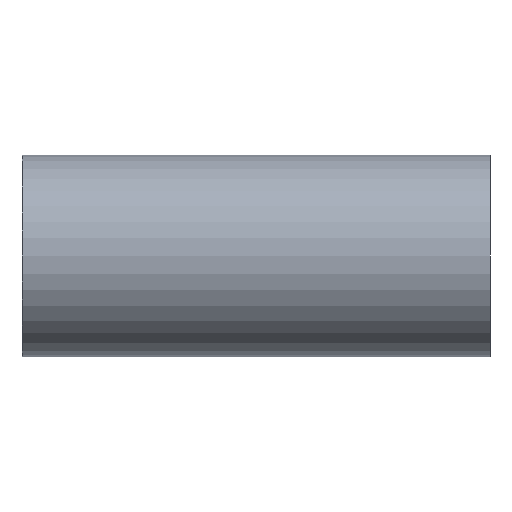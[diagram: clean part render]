
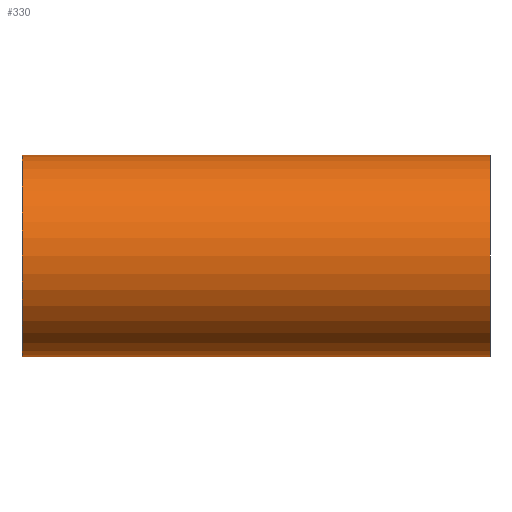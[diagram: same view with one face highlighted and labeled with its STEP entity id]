
A CAD part, front view. The second image highlights one B-rep face of the part: STEP entity #330.
In plain terms, the highlighted cylindrical face has radius 38.1 mm (diameter 76.2 mm), a partial arc.
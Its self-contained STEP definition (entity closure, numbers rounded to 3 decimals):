
#20 = CYLINDRICAL_SURFACE ( 'NONE', #525, 38.1 ) ;
#70 = CARTESIAN_POINT ( 'NONE',  ( 196.163, 0., -38.1 ) ) ;
#74 = AXIS2_PLACEMENT_3D ( 'NONE', #413, #350, #375 ) ;
#137 = CARTESIAN_POINT ( 'NONE',  ( 88.4, 0., 38.1 ) ) ;
#151 = DIRECTION ( 'NONE',  ( 0., 0., 1. ) ) ;
#162 = EDGE_CURVE ( 'NONE', #223, #407, #475, .T. ) ;
#164 = DIRECTION ( 'NONE',  ( 0., 0., 1. ) ) ;
#165 = VECTOR ( 'NONE', #239, 1000. ) ;
#174 = AXIS2_PLACEMENT_3D ( 'NONE', #439, #442, #164 ) ;
#187 = VERTEX_POINT ( 'NONE', #479 ) ;
#189 = EDGE_CURVE ( 'NONE', #223, #490, #463, .T. ) ;
#223 = VERTEX_POINT ( 'NONE', #480 ) ;
#239 = DIRECTION ( 'NONE',  ( -1., 0., 0. ) ) ;
#264 = EDGE_CURVE ( 'NONE', #407, #187, #328, .T. ) ;
#266 = ORIENTED_EDGE ( 'NONE', *, *, #295, .T. ) ;
#272 = FACE_OUTER_BOUND ( 'NONE', #310, .T. ) ;
#291 = DIRECTION ( 'NONE',  ( -1., 0., 0. ) ) ;
#295 = EDGE_CURVE ( 'NONE', #187, #490, #369, .T. ) ;
#308 = VECTOR ( 'NONE', #372, 1000. ) ;
#310 = EDGE_LOOP ( 'NONE', ( #487, #522, #360, #266 ) ) ;
#328 = LINE ( 'NONE', #452, #308 ) ;
#330 = ADVANCED_FACE ( 'NONE', ( #272 ), #20, .T. ) ;
#339 = CARTESIAN_POINT ( 'NONE',  ( 196.163, 0., 0. ) ) ;
#350 = DIRECTION ( 'NONE',  ( -1., 0., 0. ) ) ;
#360 = ORIENTED_EDGE ( 'NONE', *, *, #264, .T. ) ;
#369 = CIRCLE ( 'NONE', #174, 38.1 ) ;
#372 = DIRECTION ( 'NONE',  ( -1., 0., 0. ) ) ;
#375 = DIRECTION ( 'NONE',  ( 0., 0., 1. ) ) ;
#407 = VERTEX_POINT ( 'NONE', #137 ) ;
#413 = CARTESIAN_POINT ( 'NONE',  ( 88.4, 0., 0. ) ) ;
#439 = CARTESIAN_POINT ( 'NONE',  ( -88.4, 0., 0. ) ) ;
#442 = DIRECTION ( 'NONE',  ( 1., 0., 0. ) ) ;
#452 = CARTESIAN_POINT ( 'NONE',  ( 196.163, 0., 38.1 ) ) ;
#463 = LINE ( 'NONE', #70, #165 ) ;
#475 = CIRCLE ( 'NONE', #74, 38.1 ) ;
#479 = CARTESIAN_POINT ( 'NONE',  ( -88.4, 0., 38.1 ) ) ;
#480 = CARTESIAN_POINT ( 'NONE',  ( 88.4, 0., -38.1 ) ) ;
#487 = ORIENTED_EDGE ( 'NONE', *, *, #189, .F. ) ;
#490 = VERTEX_POINT ( 'NONE', #514 ) ;
#514 = CARTESIAN_POINT ( 'NONE',  ( -88.4, 0., -38.1 ) ) ;
#522 = ORIENTED_EDGE ( 'NONE', *, *, #162, .T. ) ;
#525 = AXIS2_PLACEMENT_3D ( 'NONE', #339, #291, #151 ) ;
